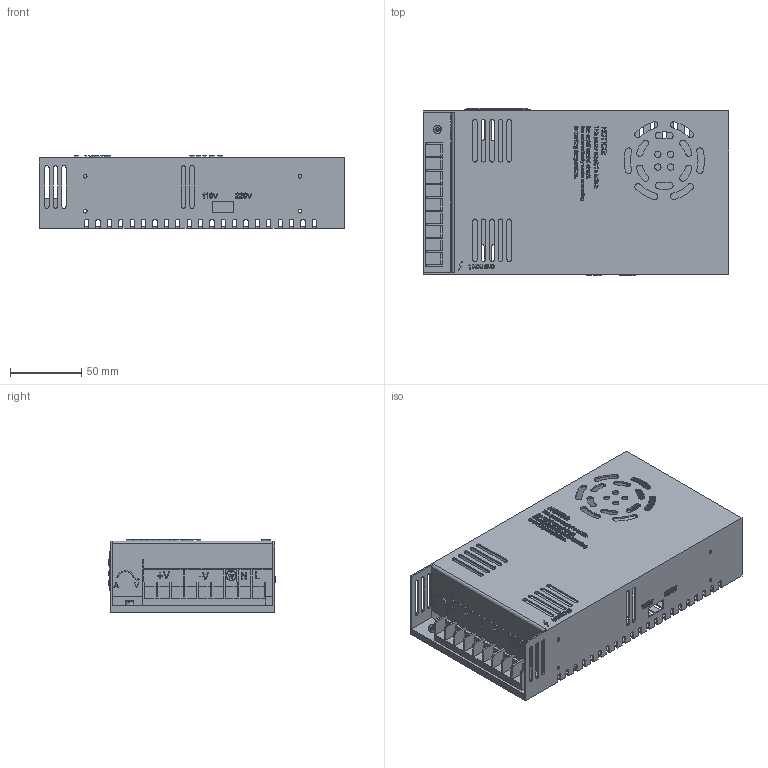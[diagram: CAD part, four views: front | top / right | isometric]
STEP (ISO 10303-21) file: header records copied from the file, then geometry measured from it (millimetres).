
FILE_DESCRIPTION(/* description */ (''),/* implementation_level */ '2;1');
FILE_NAME(/* name */ 'E:/Sam_Interests/Electronics/_Electronic Components/Power Supplies/S-360-12 Power Supply/Power Supply 360-12 12V30A v5 v4.step',/* time_stamp */ '2021-04-12T22:47:32-05:00',/* author */ (''),/* organization */ (''),/* preprocessor_version */ 'ST-DEVELOPER v18.1',/* originating_system */ 'Autodesk Translation Framework v10.6.0.1341',/* authorisation */ '');
FILE_SCHEMA (('AUTOMOTIVE_DESIGN { 1 0 10303 214 3 1 1 }'));
Products named in the file (6): Power Supply 360-12 12V30A v5; Text - Terminals; Text - Left Side; Enclosure; Text - Right Side; Text -Top
Assembly tree (5 placements, depth 2):
  Power Supply 360-12 12V30A v5
    Text - Terminals
    Text - Left Side
    Enclosure
    Text - Right Side
    Text -Top
Bounding box: 215 x 118 x 51 mm (x, y, z)
Volume: 84881.3 mm3; surface area: 164845.9 mm2
Topology: 195 solids, 195 shells, 3842 faces, 10568 edges, 7043 vertices
Faces by surface type: plane 1816, bspline 1796, cylinder 229, cone 1
Full cylindrical faces by diameter (mm): 2.529 x10, 4 x1, 4.5 x4, 6 x1, 6.631 x1, 7.331 x1
Entity records: 138530 total; most frequent: CARTESIAN_POINT 51996, ORIENTED_EDGE 21136, DIRECTION 11557, EDGE_CURVE 10568, VERTEX_POINT 7043, LINE 6509, VECTOR 6509, EDGE_LOOP 4041
